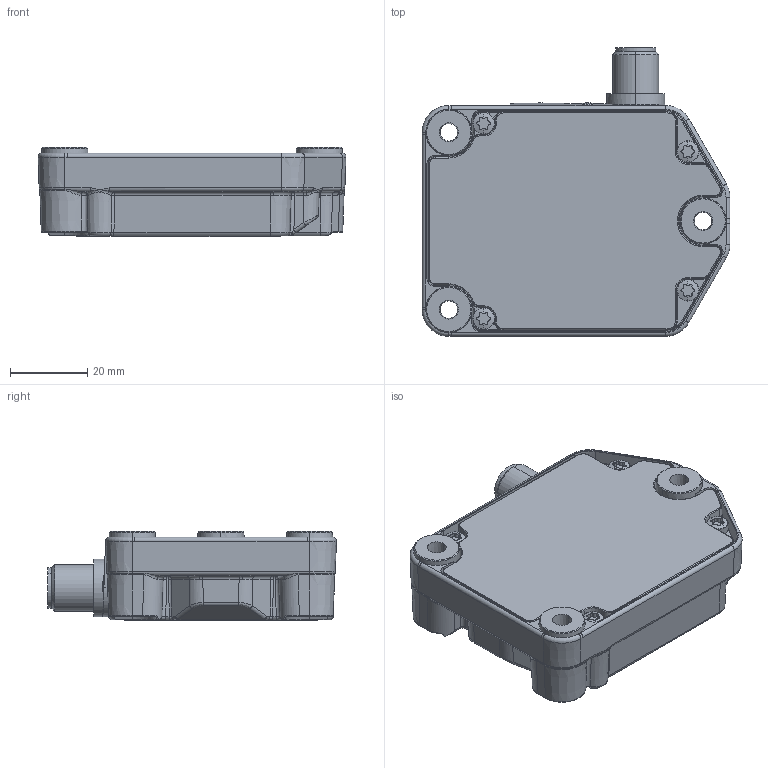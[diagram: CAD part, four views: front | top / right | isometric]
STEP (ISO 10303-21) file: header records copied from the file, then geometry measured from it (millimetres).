
FILE_DESCRIPTION (( 'STEP AP214' ), '1' );
FILE_NAME ('IN88_1xM12.STEP', '2016-05-12T08:57:16', ( 'admin' ), ( 'Microsoft' ), 'SwSTEP 2.0', 'SolidWorks 2013', '' );
FILE_SCHEMA (( 'AUTOMOTIVE_DESIGN' ));
Length unit declared in the file: millimetre
Products named in the file (20): T207120i00_Roh-Leiterplatte~0; G202523u001_Gruppe_Leiterplatte_bestückt~0; FCC_Kabel_neu; G202521u001_Gruppe_Leiterplatte_bestückt~0; G202521uXXX_Bestückungsteile~0; T207119i00_Roh-Leiterplatte~0; N511164_O-Ring_2,5x1,0~0; N630357_Zylinderschraube~1; N511172_O-Ring_7,5x1,0_NBR~0; N700829_CANopen_-_Etikett_30x12~0; N100471_M12_Stifteinsatz_5_pin_konf.~0; N608870u001_Gehäuse_Guss~4_1 x M12-Schnittstelle<Deckel mit O Ring>; N630972_Zylinderschraube~0; N135136_LED-Fenster~1; O-Ring_Gehäuse; O-Ring_2,8x1,0~0; N608871_Deckel~3_Dichtung im Deckel<Standard>; IN88_1xM12; N700848_Etikett_44x50~0
Assembly tree (25 placements, depth 3):
  IN88_1xM12
    O-Ring_Gehäuse
    N630972_Zylinderschraube~0  x4
    N100471_M12_Stifteinsatz_5_pin_konf.~0
    N511172_O-Ring_7,5x1,0_NBR~0
    N630357_Zylinderschraube~1  x4
    N511164_O-Ring_2,5x1,0~0
    G202521u001_Gruppe_Leiterplatte_bestückt~0
      T207119i00_Roh-Leiterplatte~0
      G202521uXXX_Bestückungsteile~0
    FCC_Kabel_neu
    G202523u001_Gruppe_Leiterplatte_bestückt~0
      G202523u001_Gruppe_Leiterplatte_bestückt~0
      T207120i00_Roh-Leiterplatte~0
    N700848_Etikett_44x50~0
    N608871_Deckel~3_Dichtung im Deckel<Standard>
    O-Ring_2,8x1,0~0
    N135136_LED-Fenster~1
    N608870u001_Gehäuse_Guss~4_1 x M12-Schnittstelle<Deckel mit O Ring>
    N700829_CANopen_-_Etikett_30x12~0
Bounding box: 79.93 x 74.96 x 23.2 mm (x, y, z)
Volume: 53232 mm3; surface area: 53782.4 mm2
Topology: 218 solids, 218 shells, 6000 faces, 15333 edges, 9780 vertices
Faces by surface type: plane 4100, cylinder 1078, cone 287, torus 278, bspline 219, sphere 38
Entity records: 231148 total; most frequent: CARTESIAN_POINT 38198, ORIENTED_EDGE 29676, DIRECTION 28345, EDGE_CURVE 14838, LINE 11461, VECTOR 11461, VERTEX_POINT 9498, AXIS2_PLACEMENT_3D 8442
